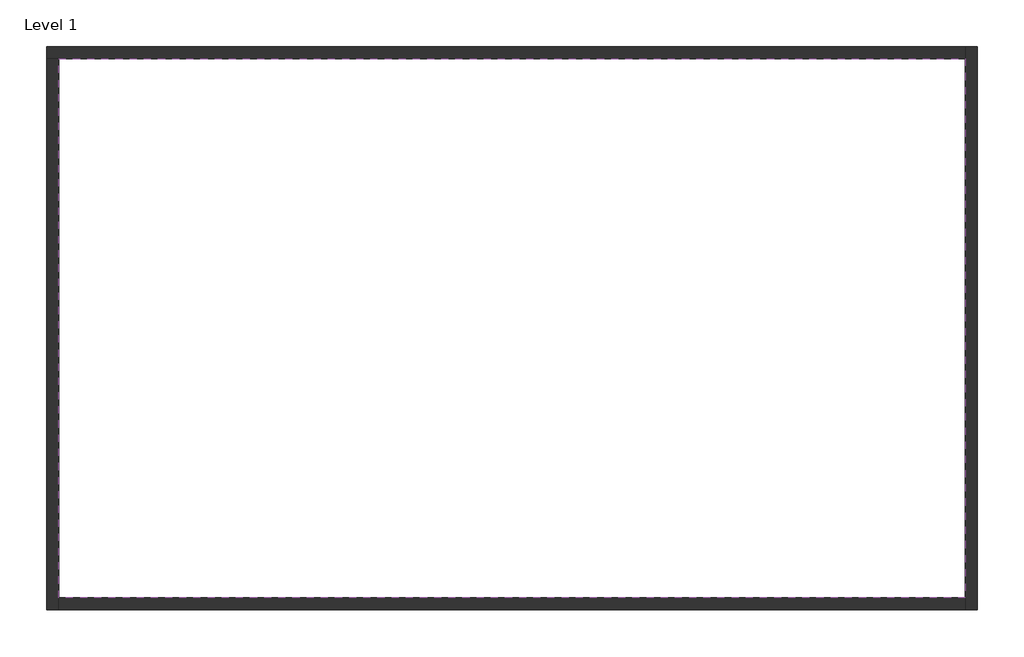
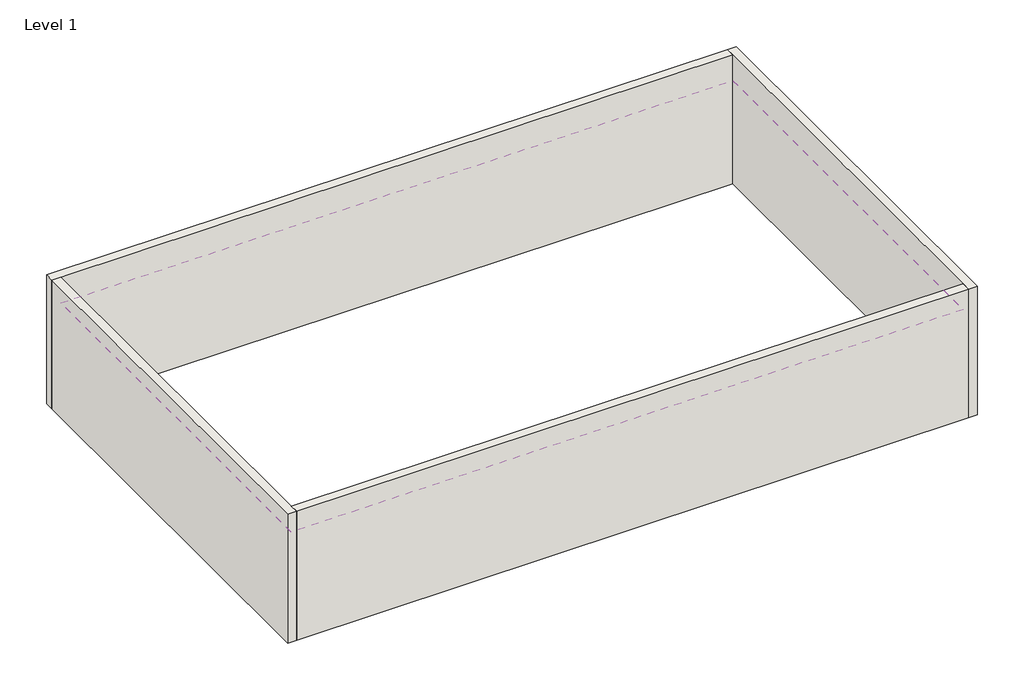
# One storey: 4 walls, 1 covering.
"""IFC4 building model written with IfcOpenShell, lengths in millimetres."""

from ifc_helpers import new_model, si_unit, frame, origin, origin_with_axes, place, context, project, spatial, polyline, outline, extrude, faceted_brep, element, save

model = new_model("IFC4")

# Units and contexts
model_context = context("Model", 3, world=origin())
ifc_project = project(units=[si_unit("LENGTHUNIT", "METRE", prefix="MILLI")], contexts=[model_context])

# Site, building, storey
site = spatial("IfcSite", under=ifc_project)
building = spatial("IfcBuilding", under=site)
storey = spatial("IfcBuildingStorey", under=building, Name="Level 1", Elevation=0.0)

# Covering
placement = place(None, origin())
element("IfcCovering", 1, ObjectType="2' x 2' ACT System", at=placement, inside=storey, context=model_context, shape_type="SweptSolid", body=[
    extrude(outline(polyline([(-7637.73909, 9212.1412302), (7399.06091, 9212.1412302), (7399.06091, 271.3412302), (-7637.73909, 271.3412302), (-7637.73909, 9212.1412302)])), frame((0.0, 0.0, 2438.4), z_axis=(0.0, 0.0, 1.0), x_axis=(1.0, 0.0, 0.0)), (0.0, 0.0, 1.0), 57.15),
])

# Walls
element("IfcWall", 2, ObjectType="Generic - 8\"", at=placement, inside=storey, context=model_context, shape_type="Brep", body=[
    faceted_brep([(-7840.93909, 9212.1412302, 0.0), (-7637.73909, 9212.1412302, 0.0), (7399.06091, 9212.1412302, 0.0), (7399.06091, 9212.1412302, 3048.0), (-7637.73909, 9212.1412302, 3048.0), (-7840.93909, 9212.1412302, 3048.0), (-7840.93909, 9415.3412302, 0.0), (-7840.93909, 9415.3412302, 3048.0), (7399.06091, 9415.3412302, 3048.0), (7399.06091, 9415.3412302, 0.0)], [[[0, 1, 2, 3, 4, 5]], [[6, 7, 8, 9]], [[2, 1, 0, 6, 9]], [[5, 4, 3, 8, 7]], [[0, 5, 7, 6]], [[3, 2, 9, 8]]]),
])
element("IfcWall", 3, ObjectType="Generic - 8\"", at=placement, inside=storey, context=model_context, shape_type="Brep", body=[
    faceted_brep([(-7637.73909, 68.1412302, 0.0), (-7637.73909, 271.3412302, 0.0), (-7637.73909, 9212.1412302, 0.0), (-7637.73909, 9212.1412302, 3048.0), (-7637.73909, 271.3412302, 3048.0), (-7637.73909, 68.1412302, 3048.0), (-7840.93909, 68.1412302, 0.0), (-7840.93909, 68.1412302, 3048.0), (-7840.93909, 9212.1412302, 3048.0), (-7840.93909, 9212.1412302, 0.0)], [[[0, 1, 2, 3, 4, 5]], [[6, 7, 8, 9]], [[2, 1, 0, 6, 9]], [[5, 4, 3, 8, 7]], [[0, 5, 7, 6]], [[3, 2, 9, 8]]]),
])
element("IfcWall", 4, ObjectType="Generic - 8\"", at=placement, inside=storey, context=model_context, shape_type="SweptSolid", body=[
    extrude(outline(polyline([(-7637.73909, 271.3412302), (7399.06091, 271.3412302), (7399.06091, 68.1412302), (-7637.73909, 68.1412302), (-7637.73909, 271.3412302)])), origin_with_axes(), (0.0, 0.0, 1.0), 3048.0),
])
element("IfcWall", 5, ObjectType="Generic - 8\"", at=placement, inside=storey, context=model_context, shape_type="Brep", body=[
    faceted_brep([(7399.06091, 9415.3412302, 0.0), (7399.06091, 9212.1412302, 0.0), (7399.06091, 271.3412302, 0.0), (7399.06091, 68.1412302, 0.0), (7399.06091, 68.1412302, 3048.0), (7399.06091, 271.3412302, 3048.0), (7399.06091, 9212.1412302, 3048.0), (7399.06091, 9415.3412302, 3048.0), (7602.26091, 9415.3412302, 0.0), (7602.26091, 9415.3412302, 3048.0), (7602.26091, 68.1412302, 3048.0), (7602.26091, 68.1412302, 0.0)], [[[0, 1, 2, 3, 4, 5, 6, 7]], [[8, 9, 10, 11]], [[3, 2, 1, 0, 8, 11]], [[7, 6, 5, 4, 10, 9]], [[0, 7, 9, 8]], [[4, 3, 11, 10]]]),
])

save(model, "model.ifc")
